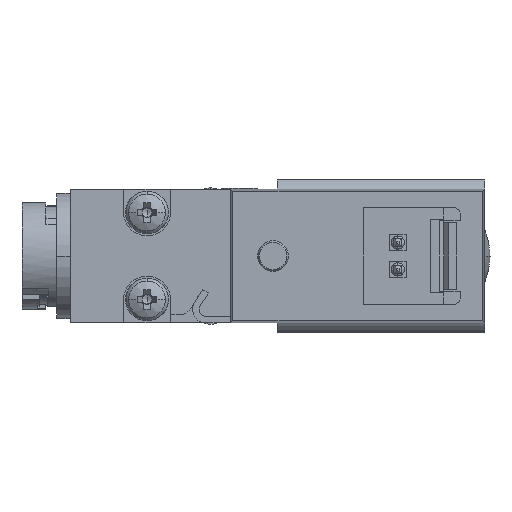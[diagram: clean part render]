
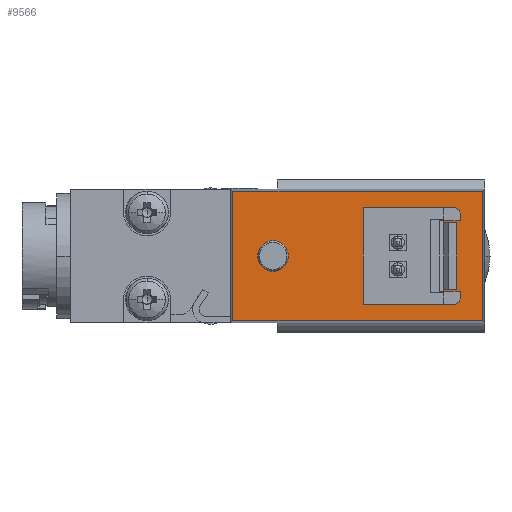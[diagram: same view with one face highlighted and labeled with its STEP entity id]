
A CAD part, left-side view. The second image highlights one B-rep face of the part: STEP entity #9566.
In plain terms, the highlighted planar face has unit normal (-1, 0, 0) as drawn and (0, 0, 1) by its records, which use the part's own axes.
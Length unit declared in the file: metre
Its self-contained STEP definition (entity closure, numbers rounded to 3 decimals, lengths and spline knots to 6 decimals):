
#30 = ORIENTED_EDGE ( 'NONE', *, *, #12715, .T. ) ;
#37 = DIRECTION ( 'NONE',  ( -1., 0., 0. ) ) ;
#552 = EDGE_CURVE ( 'NONE', #6684, #6349, #2762, .T. ) ;
#641 = DIRECTION ( 'NONE',  ( 0., 1., 0. ) ) ;
#780 = CARTESIAN_POINT ( 'NONE',  ( 0.0015, 0.0075, 0.005 ) ) ;
#953 = ORIENTED_EDGE ( 'NONE', *, *, #6356, .F. ) ;
#997 = FACE_BOUND ( 'NONE', #9276, .T. ) ;
#1421 = VECTOR ( 'NONE', #641, 1. ) ;
#1493 = CARTESIAN_POINT ( 'NONE',  ( 0., 0.001175, 0.005 ) ) ;
#1508 = EDGE_LOOP ( 'NONE', ( #6725, #13874 ) ) ;
#1522 = CARTESIAN_POINT ( 'NONE',  ( -0.0005, 0.0085, 0.005 ) ) ;
#1583 = CARTESIAN_POINT ( 'NONE',  ( -0.0015, 0.0085, 0.005 ) ) ;
#1658 = ORIENTED_EDGE ( 'NONE', *, *, #7819, .F. ) ;
#1702 = CARTESIAN_POINT ( 'NONE',  ( -0.0015, 0.0075, 0.005 ) ) ;
#2033 = CARTESIAN_POINT ( 'NONE',  ( 0.0015, 0.0085, 0.005 ) ) ;
#2590 = CARTESIAN_POINT ( 'NONE',  ( 0.004825, 0.019825, 0.005 ) ) ;
#2762 = LINE ( 'NONE', #15079, #13072 ) ;
#2857 = EDGE_CURVE ( 'NONE', #6349, #10810, #10506, .T. ) ;
#2878 =( BOUNDED_CURVE ( )  B_SPLINE_CURVE ( 3, ( #780, #2033, #9502, #3300 ),
 .UNSPECIFIED., .F., .F. ) 
 B_SPLINE_CURVE_WITH_KNOTS ( ( 4, 4 ),
 ( 0., 0.001563 ),
 .UNSPECIFIED. ) 
 CURVE ( )  GEOMETRIC_REPRESENTATION_ITEM ( )  RATIONAL_B_SPLINE_CURVE ( ( 0.957, 0.319, 0.319, 0.957 ) ) 
 REPRESENTATION_ITEM ( '' )  );
#2926 = CARTESIAN_POINT ( 'NONE',  ( -0.004825, 0.019825, 0.005 ) ) ;
#3104 = CIRCLE ( 'NONE', #10900, 0.00115 ) ;
#3282 = CARTESIAN_POINT ( 'NONE',  ( 0.0005, 0.0075, 0.005 ) ) ;
#3295 =( BOUNDED_CURVE ( )  B_SPLINE_CURVE ( 3, ( #13380, #14761, #4813, #13479 ),
 .UNSPECIFIED., .F., .F. ) 
 B_SPLINE_CURVE_WITH_KNOTS ( ( 4, 4 ),
 ( 0., 0.001563 ),
 .UNSPECIFIED. ) 
 CURVE ( )  GEOMETRIC_REPRESENTATION_ITEM ( )  RATIONAL_B_SPLINE_CURVE ( ( 0.957, 0.319, 0.319, 0.957 ) ) 
 REPRESENTATION_ITEM ( '' )  );
#3300 = CARTESIAN_POINT ( 'NONE',  ( 0.0005, 0.0075, 0.005 ) ) ;
#3748 = CARTESIAN_POINT ( 'NONE',  ( 0., 0.019825, 0.005 ) ) ;
#4072 = VERTEX_POINT ( 'NONE', #1702 ) ;
#4117 = EDGE_CURVE ( 'NONE', #5757, #6684, #14427, .T. ) ;
#4390 = CARTESIAN_POINT ( 'NONE',  ( 0.0005, 0.0065, 0.005 ) ) ;
#4552 = ORIENTED_EDGE ( 'NONE', *, *, #4117, .F. ) ;
#4813 = CARTESIAN_POINT ( 'NONE',  ( -0.0005, 0.0065, 0.005 ) ) ;
#5136 = FACE_OUTER_BOUND ( 'NONE', #14707, .T. ) ;
#5163 = ORIENTED_EDGE ( 'NONE', *, *, #552, .F. ) ;
#5183 = DIRECTION ( 'NONE',  ( 1., 0., 0. ) ) ;
#5339 = CARTESIAN_POINT ( 'NONE',  ( -0.0005, 0.0075, 0.005 ) ) ;
#5483 = PLANE ( 'NONE',  #12424 ) ;
#5554 = CARTESIAN_POINT ( 'NONE',  ( 0., 0.016825, 0.005 ) ) ;
#5647 = CARTESIAN_POINT ( 'NONE',  ( 0.0015, 0.0065, 0.005 ) ) ;
#5757 = VERTEX_POINT ( 'NONE', #2926 ) ;
#6224 = CARTESIAN_POINT ( 'NONE',  ( -0.004825, 0.001175, 0.005 ) ) ;
#6349 = VERTEX_POINT ( 'NONE', #15852 ) ;
#6356 = EDGE_CURVE ( 'NONE', #10289, #6988, #2878, .T. ) ;
#6417 = CARTESIAN_POINT ( 'NONE',  ( -0.0005, 0.0075, 0.005 ) ) ;
#6684 = VERTEX_POINT ( 'NONE', #2590 ) ;
#6714 = DIRECTION ( 'NONE',  ( -1., 0., 0. ) ) ;
#6725 = ORIENTED_EDGE ( 'NONE', *, *, #15094, .F. ) ;
#6776 = DIRECTION ( 'NONE',  ( -1., 0., 0. ) ) ;
#6986 =( BOUNDED_CURVE ( )  B_SPLINE_CURVE ( 3, ( #5339, #1522, #1583, #10283 ),
 .UNSPECIFIED., .F., .F. ) 
 B_SPLINE_CURVE_WITH_KNOTS ( ( 4, 4 ),
 ( 0., 0.001563 ),
 .UNSPECIFIED. ) 
 CURVE ( )  GEOMETRIC_REPRESENTATION_ITEM ( )  RATIONAL_B_SPLINE_CURVE ( ( 0.957, 0.319, 0.319, 0.957 ) ) 
 REPRESENTATION_ITEM ( '' )  );
#6988 = VERTEX_POINT ( 'NONE', #3282 ) ;
#7213 = CARTESIAN_POINT ( 'NONE',  ( 0., 0.016825, 0.005 ) ) ;
#7637 = FACE_BOUND ( 'NONE', #15000, .T. ) ;
#7688 = EDGE_CURVE ( 'NONE', #14702, #4072, #6986, .T. ) ;
#7815 = AXIS2_PLACEMENT_3D ( 'NONE', #5554, #14259, #6776 ) ;
#7819 = EDGE_CURVE ( 'NONE', #6988, #10289, #12752, .T. ) ;
#8464 = DIRECTION ( 'NONE',  ( -1., 0., 0. ) ) ;
#8474 = EDGE_CURVE ( 'NONE', #10810, #5757, #11365, .T. ) ;
#9276 = EDGE_LOOP ( 'NONE', ( #11379, #30 ) ) ;
#9502 = CARTESIAN_POINT ( 'NONE',  ( 0.0005, 0.0085, 0.005 ) ) ;
#9566 = ADVANCED_FACE ( 'NONE', ( #997, #7637, #13882, #5136 ), #5483, .F. ) ;
#9956 = ORIENTED_EDGE ( 'NONE', *, *, #2857, .F. ) ;
#10108 = VECTOR ( 'NONE', #37, 1. ) ;
#10283 = CARTESIAN_POINT ( 'NONE',  ( -0.0015, 0.0075, 0.005 ) ) ;
#10289 = VERTEX_POINT ( 'NONE', #11451 ) ;
#10402 = CARTESIAN_POINT ( 'NONE',  ( 0.004825, 0.001175, 0.005 ) ) ;
#10506 = LINE ( 'NONE', #1493, #10108 ) ;
#10657 = VECTOR ( 'NONE', #5183, 1. ) ;
#10810 = VERTEX_POINT ( 'NONE', #6224 ) ;
#10900 = AXIS2_PLACEMENT_3D ( 'NONE', #7213, #16074, #8464 ) ;
#10977 = VERTEX_POINT ( 'NONE', #14073 ) ;
#11365 = LINE ( 'NONE', #15694, #1421 ) ;
#11379 = ORIENTED_EDGE ( 'NONE', *, *, #15565, .T. ) ;
#11451 = CARTESIAN_POINT ( 'NONE',  ( 0.0015, 0.0075, 0.005 ) ) ;
#11817 = CARTESIAN_POINT ( 'NONE',  ( 0.0005, 0.0075, 0.005 ) ) ;
#12424 = AXIS2_PLACEMENT_3D ( 'NONE', #10402, #14198, #6714 ) ;
#12715 = EDGE_CURVE ( 'NONE', #15156, #10977, #3104, .T. ) ;
#12752 =( BOUNDED_CURVE ( )  B_SPLINE_CURVE ( 3, ( #11817, #4390, #5647, #14387 ),
 .UNSPECIFIED., .F., .F. ) 
 B_SPLINE_CURVE_WITH_KNOTS ( ( 4, 4 ),
 ( 0., 0.001563 ),
 .UNSPECIFIED. ) 
 CURVE ( )  GEOMETRIC_REPRESENTATION_ITEM ( )  RATIONAL_B_SPLINE_CURVE ( ( 0.957, 0.319, 0.319, 0.957 ) ) 
 REPRESENTATION_ITEM ( '' )  );
#13072 = VECTOR ( 'NONE', #15712, 1. ) ;
#13173 = CIRCLE ( 'NONE', #7815, 0.00115 ) ;
#13380 = CARTESIAN_POINT ( 'NONE',  ( -0.0015, 0.0075, 0.005 ) ) ;
#13479 = CARTESIAN_POINT ( 'NONE',  ( -0.0005, 0.0075, 0.005 ) ) ;
#13831 = ORIENTED_EDGE ( 'NONE', *, *, #8474, .F. ) ;
#13874 = ORIENTED_EDGE ( 'NONE', *, *, #7688, .F. ) ;
#13882 = FACE_BOUND ( 'NONE', #1508, .T. ) ;
#14073 = CARTESIAN_POINT ( 'NONE',  ( -0.00115, 0.016825, 0.005 ) ) ;
#14198 = DIRECTION ( 'NONE',  ( 0., 0., -1. ) ) ;
#14259 = DIRECTION ( 'NONE',  ( 0., 0., -1. ) ) ;
#14387 = CARTESIAN_POINT ( 'NONE',  ( 0.0015, 0.0075, 0.005 ) ) ;
#14427 = LINE ( 'NONE', #3748, #10657 ) ;
#14702 = VERTEX_POINT ( 'NONE', #6417 ) ;
#14707 = EDGE_LOOP ( 'NONE', ( #4552, #13831, #9956, #5163 ) ) ;
#14761 = CARTESIAN_POINT ( 'NONE',  ( -0.0015, 0.0065, 0.005 ) ) ;
#15000 = EDGE_LOOP ( 'NONE', ( #953, #1658 ) ) ;
#15079 = CARTESIAN_POINT ( 'NONE',  ( 0.004825, 0.0105, 0.005 ) ) ;
#15094 = EDGE_CURVE ( 'NONE', #4072, #14702, #3295, .T. ) ;
#15156 = VERTEX_POINT ( 'NONE', #16199 ) ;
#15565 = EDGE_CURVE ( 'NONE', #10977, #15156, #13173, .T. ) ;
#15694 = CARTESIAN_POINT ( 'NONE',  ( -0.004825, 0.0105, 0.005 ) ) ;
#15712 = DIRECTION ( 'NONE',  ( 0., -1., 0. ) ) ;
#15852 = CARTESIAN_POINT ( 'NONE',  ( 0.004825, 0.001175, 0.005 ) ) ;
#16074 = DIRECTION ( 'NONE',  ( 0., 0., -1. ) ) ;
#16199 = CARTESIAN_POINT ( 'NONE',  ( 0.00115, 0.016825, 0.005 ) ) ;
